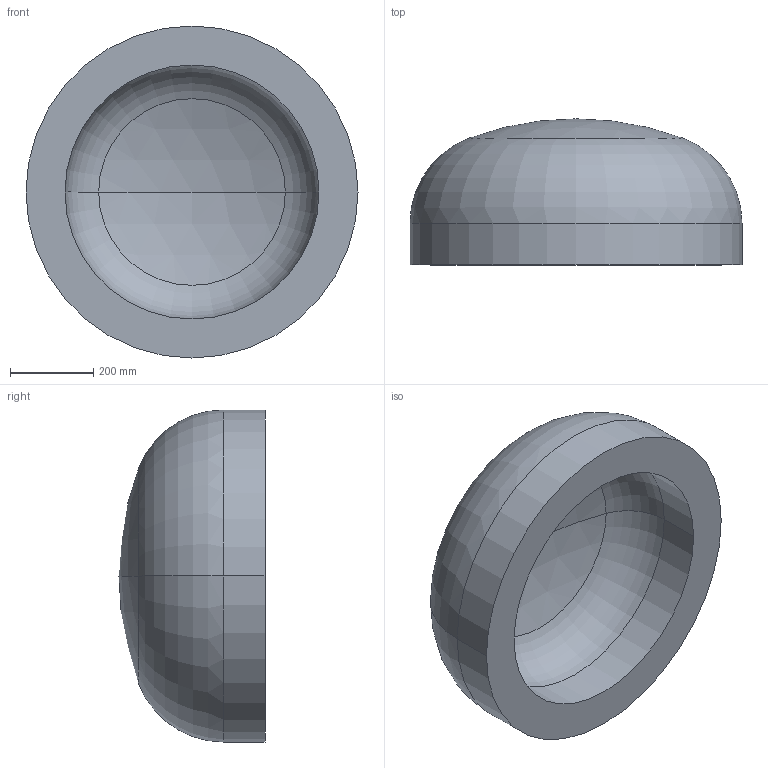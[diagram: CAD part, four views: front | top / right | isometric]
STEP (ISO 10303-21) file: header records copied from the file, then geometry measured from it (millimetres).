
FILE_DESCRIPTION (( 'STEP AP203' ), '1' );
FILE_NAME ('DIN 28013 Korbbogenform_-_Boden DIN 28013 - 800 x 100 - I - s=94.step', '2016-07-01T08:22:19', ( '' ), ( '' ), 'SwSTEP 2.0', 'SolidWorks 2013', '' );
FILE_SCHEMA (( 'CONFIG_CONTROL_DESIGN' ));
Length unit declared in the file: millimetre
Products named in the file (1): DIN 28013 Korbbogenform_-_Boden DIN 28013 - 800 x 100 - I - s=94
Bounding box: 800 x 351.85 x 800 mm (x, y, z)
Volume: 77704430.4 mm3; surface area: 1880280.3 mm2
Topology: 1 solids, 1 shells, 13 faces, 24 edges, 14 vertices
Faces by surface type: torus 4, cylinder 4, sphere 4, plane 1
Entity records: 407 total; most frequent: DIRECTION 72, CARTESIAN_POINT 52, ORIENTED_EDGE 48, AXIS2_PLACEMENT_3D 34, EDGE_CURVE 24, CIRCLE 20, VERTEX_POINT 14, EDGE_LOOP 14
